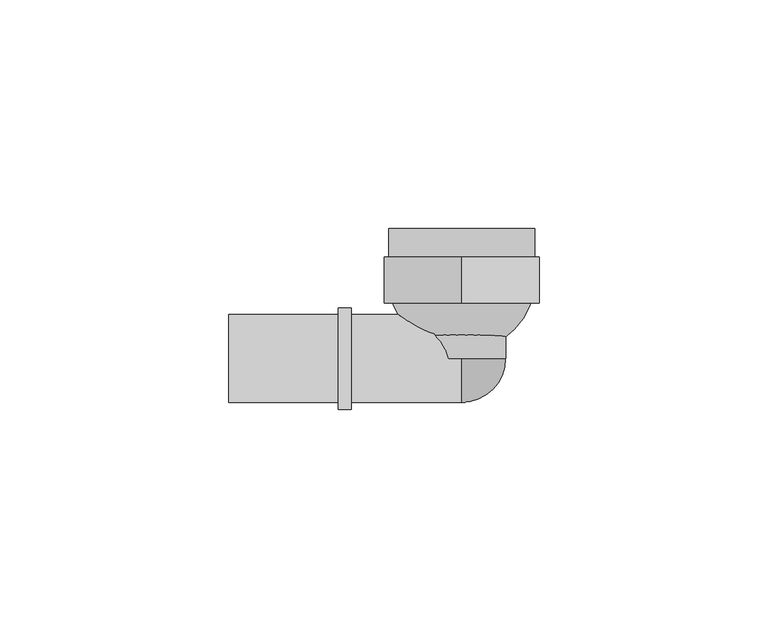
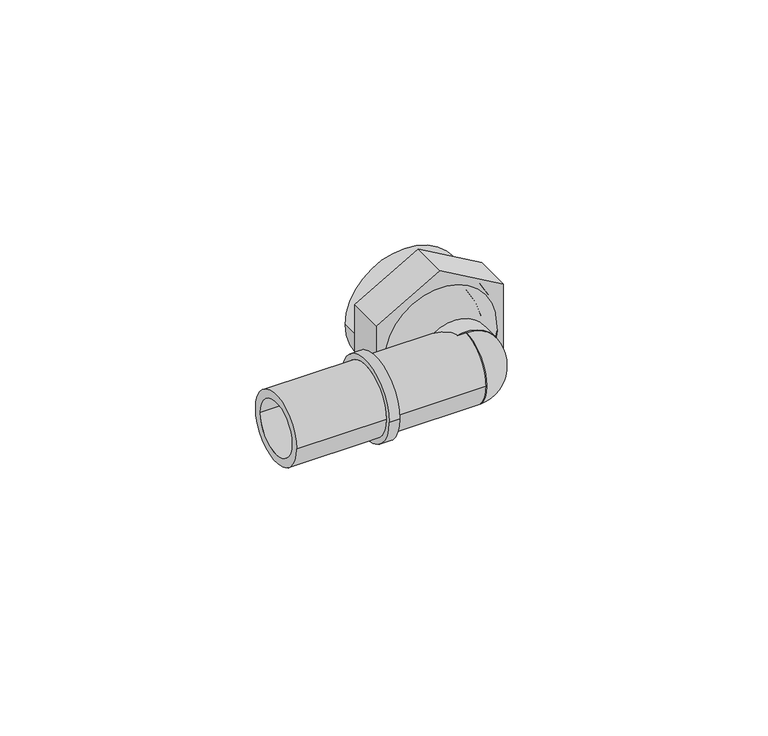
"""IFC4 building model written with IfcOpenShell, lengths in millimetres: pipe fitting geometry, FASTLOC_Elbow with female thread LX : FSL A internal PL."""

from ifc_helpers import new_model, si_unit, point, frame, origin, origin_2d, place, context, project, spatial, polyline, circle_curve, ellipse_curve, trimmed, segment, composite_curve, outline, extrude, source, transform, mapped, element, save
from ifc_brep_helpers import plane_surface, cylinder_surface, revolved_surface, advanced_brep


def pipe_fitting_05069365(model_context):
    return source(origin(), model_context, "Body", "SolidModel", [
        extrude(outline(composite_curve([segment(trimmed(circle_curve(origin_2d(), 9.6), [point((0.0, -9.6))], [point((0.0, 9.6))], False, "CARTESIAN"), True, "CONTINUOUS"), segment(trimmed(circle_curve(origin_2d(), 9.6), [point((0.0, 9.6))], [point((0.0, -9.6))], False, "CARTESIAN"), True, "CONTINUOUS")], self_intersect=False), holes=[composite_curve([segment(trimmed(circle_curve(origin_2d(), 7.35), [point((0.0, -7.35))], [point((0.0, 7.35))], True, "CARTESIAN"), True, "CONTINUOUS"), segment(trimmed(circle_curve(origin_2d(), 7.35), [point((0.0, 7.35))], [point((0.0, -7.35))], True, "CARTESIAN"), True, "CONTINUOUS")], self_intersect=False)]), frame((0.0, 0.0, 0.0), z_axis=(0.0, 1.0, 0.0), x_axis=(0.0, 0.0, 1.0)), (0.0, 0.0, 1.0), 12.2),
        extrude(outline(polyline([(-9.8149546, 17.0), (9.8149546, 17.0), (19.6299092, 0.0), (9.8149546, -17.0), (-9.8149546, -17.0), (-19.6299092, 0.0), (-9.8149546, 17.0)])), frame((0.0, 12.2, 0.0), z_axis=(0.0, 1.0, 0.0), x_axis=(0.0, 0.0, 1.0)), (0.0, 0.0, 1.0), 10.0),
        advanced_brep(
        [(0.0, 0.0, 9.6), (0.0, 0.0, 4.8), (0.0, -4.8, 0.0), (0.0, -9.6, 0.0), (0.0, 0.0, -9.6), (0.0, 0.0, -4.8)],
        [
            (0, 1),
            (1, 2, circle_curve(frame((0.0, 0.0, 0.0), z_axis=(1.0, 0.0, 0.0), x_axis=(0.0, 0.0, 1.0)), 4.8)),
            (2, 3),
            (3, 0, circle_curve(frame((0.0, 0.0, 0.0), z_axis=(-1.0, 0.0, 0.0), x_axis=(0.0, 0.0, 1.0)), 9.6)),
            (4, 3, circle_curve(frame((0.0, 0.0, 0.0), z_axis=(-1.0, 0.0, 0.0), x_axis=(0.0, 0.0, -1.0)), 9.6)),
            (2, 5, circle_curve(frame((0.0, 0.0, 0.0), z_axis=(1.0, 0.0, 0.0), x_axis=(0.0, 0.0, -1.0)), 4.8)),
            (5, 4),
            (5, 1, circle_curve(frame((0.0, 0.0, 0.0), z_axis=(0.0, -1.0, 0.0), x_axis=(0.0, 0.0, 1.0)), 4.8)),
            (0, 4, circle_curve(frame((0.0, 0.0, 0.0), z_axis=(0.0, 1.0, 0.0), x_axis=(0.0, 0.0, 1.0)), 9.6)),
        ],
        [
            plane_surface(frame((0.0, 0.0, 0.0), z_axis=(-1.0, 0.0, 0.0), x_axis=(0.0, 0.0, 1.0))),
            plane_surface(frame((0.0, 0.0, 0.0), z_axis=(-1.0, 0.0, 0.0), x_axis=(0.0, 0.0, -1.0))),
            plane_surface(frame((0.0, 0.0, 0.0), z_axis=(0.0, 1.0, 0.0), x_axis=(0.0, 0.0, 1.0))),
            revolved_surface(trimmed(ellipse_curve(frame((0.0, 0.0, 0.0), z_axis=(1.0, 0.0, 0.0), x_axis=(0.0, 0.0, 1.0)), 4.8, 4.8), [point((0.0, 0.0, 4.8))], [point((0.0, -4.8, 0.0))], True, "CARTESIAN"), (0.0, 0.0, 0.0), (0.0, 1.0, 0.0)),
            revolved_surface(trimmed(ellipse_curve(frame((0.0, 0.0, 0.0), z_axis=(-1.0, 0.0, 0.0), x_axis=(0.0, 0.0, 1.0)), 9.6, 9.6), [point((0.0, -9.6, 0.0))], [point((0.0, 0.0, 9.6))], True, "CARTESIAN"), (0.0, 0.0, 0.0), (0.0, 1.0, 0.0)),
        ],
        [
            (0, [[1, 2, 3, 4]]),
            (1, [[5, -3, 6, 7]]),
            (2, [[8, -1, 9, -7]]),
            (3, [[-2, -8, -6]]),
            (4, [[-9, -4, -5]]),
        ],
    ),
        advanced_brep(
        [(-27.0, 9.6, 0.0), (-27.0, -9.6, 0.0), (-51.0, -9.6, 0.0), (-51.0, 9.6, 0.0), (-24.2, 11.1, 0.0), (-24.2, -11.1, 0.0), (-27.0, -11.1, 0.0), (-27.0, 11.1, 0.0), (0.0, 9.6, 0.0), (0.0, -9.6, 0.0), (-24.2, -9.6, 0.0), (-24.2, 9.6, 0.0), (-51.0, 7.35, 0.0), (-51.0, -7.35, 0.0), (0.0, -7.35, 0.0), (0.0, 7.35, 0.0)],
        [
            (0, 1, circle_curve(frame((-27.0, 0.0, 0.0), z_axis=(-1.0, 0.0, 0.0), x_axis=(0.0, -1.0, 0.0)), 9.6)),
            (1, 2),
            (2, 3, circle_curve(frame((-51.0, 0.0, 0.0), z_axis=(1.0, 0.0, 0.0), x_axis=(0.0, -1.0, 0.0)), 9.6)),
            (3, 0),
            (4, 5, circle_curve(frame((-24.2, 0.0, 0.0), z_axis=(-1.0, 0.0, 0.0), x_axis=(0.0, -1.0, 0.0)), 11.1)),
            (5, 6),
            (6, 7, circle_curve(frame((-27.0, 0.0, 0.0), z_axis=(1.0, 0.0, 0.0), x_axis=(0.0, -1.0, 0.0)), 11.1)),
            (7, 4),
            (8, 9, circle_curve(frame((0.0, 0.0, 0.0), z_axis=(-1.0, 0.0, 0.0), x_axis=(0.0, -1.0, 0.0)), 9.6)),
            (9, 10),
            (10, 11, circle_curve(frame((-24.2, 0.0, 0.0), z_axis=(1.0, 0.0, 0.0), x_axis=(0.0, -1.0, 0.0)), 9.6)),
            (11, 8),
            (12, 13, circle_curve(frame((-51.0, 0.0, 0.0), z_axis=(-1.0, 0.0, 0.0), x_axis=(0.0, -1.0, 0.0)), 7.35)),
            (13, 14),
            (14, 15, circle_curve(frame((0.0, 0.0, 0.0), z_axis=(1.0, 0.0, 0.0), x_axis=(0.0, -1.0, 0.0)), 7.35)),
            (15, 12),
            (2, 3, circle_curve(frame((-51.0, 0.0, 0.0), z_axis=(-1.0, 0.0, 0.0), x_axis=(0.0, 1.0, 0.0)), 9.6)),
            (12, 13, circle_curve(frame((-51.0, 0.0, 0.0), z_axis=(1.0, 0.0, 0.0), x_axis=(0.0, 1.0, 0.0)), 7.35)),
            (1, 0, circle_curve(frame((-27.0, 0.0, 0.0), z_axis=(-1.0, 0.0, 0.0), x_axis=(0.0, 1.0, 0.0)), 9.6)),
            (6, 7, circle_curve(frame((-27.0, 0.0, 0.0), z_axis=(-1.0, 0.0, 0.0), x_axis=(0.0, 1.0, 0.0)), 11.1)),
            (5, 4, circle_curve(frame((-24.2, 0.0, 0.0), z_axis=(-1.0, 0.0, 0.0), x_axis=(0.0, 1.0, 0.0)), 11.1)),
            (10, 11, circle_curve(frame((-24.2, 0.0, 0.0), z_axis=(-1.0, 0.0, 0.0), x_axis=(0.0, 1.0, 0.0)), 9.6)),
            (9, 8, circle_curve(frame((0.0, 0.0, 0.0), z_axis=(-1.0, 0.0, 0.0), x_axis=(0.0, 1.0, 0.0)), 9.6)),
            (14, 15, circle_curve(frame((0.0, 0.0, 0.0), z_axis=(-1.0, 0.0, 0.0), x_axis=(0.0, 1.0, 0.0)), 7.35)),
        ],
        [
            cylinder_surface(frame((0.0, 0.0, 0.0), z_axis=(1.0, 0.0, 0.0), x_axis=(0.0, -1.0, 0.0)), 9.6),
            cylinder_surface(frame((0.0, 0.0, 0.0), z_axis=(1.0, 0.0, 0.0), x_axis=(0.0, -1.0, 0.0)), 11.1),
            revolved_surface(polyline([(0.0, -7.35, 0.0), (-51.0, -7.35, 0.0)]), (0.0, 0.0, 0.0), (1.0, 0.0, 0.0)),
            plane_surface(frame((-51.0, 0.0, 0.0), z_axis=(-1.0, 0.0, 0.0), x_axis=(0.0, 1.0, 0.0))),
            cylinder_surface(frame((0.0, 0.0, 0.0), z_axis=(1.0, 0.0, 0.0), x_axis=(0.0, 1.0, 0.0)), 9.6),
            plane_surface(frame((-27.0, 0.0, 0.0), z_axis=(-1.0, 0.0, 0.0), x_axis=(0.0, 1.0, 0.0))),
            cylinder_surface(frame((0.0, 0.0, 0.0), z_axis=(1.0, 0.0, 0.0), x_axis=(0.0, 1.0, 0.0)), 11.1),
            plane_surface(frame((-24.2, 0.0, 0.0), z_axis=(1.0, 0.0, 0.0), x_axis=(0.0, 1.0, 0.0))),
            plane_surface(frame((0.0, 0.0, 0.0), z_axis=(1.0, 0.0, 0.0), x_axis=(0.0, 1.0, 0.0))),
            revolved_surface(polyline([(0.0, 7.35, 0.0), (-51.0, 7.35, 0.0)]), (0.0, 0.0, 0.0), (1.0, 0.0, 0.0)),
        ],
        [
            (0, [[1, 2, 3, 4]]),
            (1, [[5, 6, 7, 8]]),
            (0, [[9, 10, 11, 12]]),
            (2, [[13, 14, 15, 16]]),
            (3, [[17, -3], [18, -13]]),
            (4, [[19, -4, -17, -2]]),
            (5, [[20, -7], [-19, -1]]),
            (6, [[21, -8, -20, -6]]),
            (7, [[-21, -5], [22, -11]]),
            (4, [[23, -12, -22, -10]]),
            (8, [[-23, -9], [24, -15]]),
            (9, [[-18, -16, -24, -14]]),
        ],
    ),
        advanced_brep(
        [(0.5, 1.5078144, 0.0), (-0.5, 1.5078144, 0.0), (-16.0, 17.5, 0.0), (16.0, 17.5, 0.0), (0.5, 5.010004, 0.0), (-0.5, 5.010004, 0.0), (12.5, 17.5, 0.0), (-12.5, 17.5, 0.0), (12.5, 28.5, 0.0), (-12.5, 28.5, 0.0), (-16.0, 28.5, 0.0), (16.0, 28.5, 0.0)],
        [
            (0, 1, circle_curve(frame((0.0, 1.5078144, 0.0), z_axis=(0.0, 1.0, 0.0), x_axis=(-1.0, 0.0, 0.0)), 0.5)),
            (1, 2, circle_curve(frame((0.0, 17.5, 0.0), z_axis=(0.0, 0.0, -1.0), x_axis=(0.0, 1.0, 0.0)), 16.0)),
            (2, 3, circle_curve(frame((0.0, 17.5, 0.0), z_axis=(0.0, -1.0, 0.0), x_axis=(-1.0, 0.0, 0.0)), 16.0)),
            (3, 0, circle_curve(frame((0.0, 17.5, 0.0), z_axis=(0.0, 0.0, -1.0), x_axis=(0.0, 1.0, 0.0)), 16.0)),
            (4, 5, circle_curve(frame((0.0, 5.010004, 0.0), z_axis=(0.0, 1.0, 0.0), x_axis=(-1.0, 0.0, 0.0)), 0.5)),
            (5, 1),
            (0, 4),
            (6, 7, circle_curve(frame((0.0, 17.5, 0.0), z_axis=(0.0, 1.0, 0.0), x_axis=(-1.0, 0.0, 0.0)), 12.5)),
            (7, 5, circle_curve(frame((0.0, 17.5, 0.0), z_axis=(0.0, 0.0, 1.0), x_axis=(0.0, 1.0, 0.0)), 12.5)),
            (4, 6, circle_curve(frame((0.0, 17.5, 0.0), z_axis=(0.0, 0.0, 1.0), x_axis=(0.0, 1.0, 0.0)), 12.5)),
            (8, 9, circle_curve(frame((0.0, 28.5, 0.0), z_axis=(0.0, 1.0, 0.0), x_axis=(-1.0, 0.0, 0.0)), 12.5)),
            (9, 7),
            (6, 8),
            (2, 10),
            (10, 11, circle_curve(frame((0.0, 28.5, 0.0), z_axis=(0.0, -1.0, 0.0), x_axis=(-1.0, 0.0, 0.0)), 16.0)),
            (11, 3),
            (1, 0, circle_curve(frame((0.0, 1.5078144, 0.0), z_axis=(0.0, 1.0, 0.0), x_axis=(1.0, 0.0, 0.0)), 0.5)),
            (3, 2, circle_curve(frame((0.0, 17.5, 0.0), z_axis=(0.0, -1.0, 0.0), x_axis=(1.0, 0.0, 0.0)), 16.0)),
            (5, 4, circle_curve(frame((0.0, 5.010004, 0.0), z_axis=(0.0, 1.0, 0.0), x_axis=(1.0, 0.0, 0.0)), 0.5)),
            (7, 6, circle_curve(frame((0.0, 17.5, 0.0), z_axis=(0.0, 1.0, 0.0), x_axis=(1.0, 0.0, 0.0)), 12.5)),
            (9, 8, circle_curve(frame((0.0, 28.5, 0.0), z_axis=(0.0, 1.0, 0.0), x_axis=(1.0, 0.0, 0.0)), 12.5)),
            (10, 11, circle_curve(frame((0.0, 28.5, 0.0), z_axis=(0.0, 1.0, 0.0), x_axis=(1.0, 0.0, 0.0)), 16.0)),
        ],
        [
            revolved_surface(trimmed(ellipse_curve(frame((0.0, 17.5, 0.0), z_axis=(0.0, 0.0, 1.0), x_axis=(0.0, 1.0, 0.0)), 16.0, 16.0), [point((-16.0, 17.5, 0.0))], [point((-0.5, 1.5078144, 0.0))], True, "CARTESIAN"), (0.0, 12.2, 0.0), (0.0, -1.0, 0.0)),
            revolved_surface(polyline([(-0.5, 1.5078144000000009, 0.0), (-0.5, 5.010004, 0.0)]), (0.0, 12.2, 0.0), (0.0, -1.0, 0.0)),
            revolved_surface(trimmed(ellipse_curve(frame((0.0, 17.5, 0.0), z_axis=(0.0, 0.0, -1.0), x_axis=(0.0, 1.0, 0.0)), 12.5, 12.5), [point((-0.5, 5.010004, 0.0))], [point((-12.5, 17.5, 0.0))], True, "CARTESIAN"), (0.0, 12.2, 0.0), (0.0, -1.0, 0.0)),
            revolved_surface(polyline([(-12.5, 17.5, 0.0), (-12.5, 28.5, 0.0)]), (0.0, 12.2, 0.0), (0.0, -1.0, 0.0)),
            cylinder_surface(frame((0.0, 12.2, 0.0), z_axis=(0.0, -1.0, 0.0), x_axis=(-1.0, 0.0, 0.0)), 16.0),
            revolved_surface(trimmed(ellipse_curve(frame((0.0, 17.5, 0.0), z_axis=(0.0, 0.0, -1.0), x_axis=(0.0, 1.0, 0.0)), 16.0, 16.0), [point((16.0, 17.5, 0.0))], [point((0.5, 1.5078144, 0.0))], True, "CARTESIAN"), (0.0, 12.2, 0.0), (0.0, -1.0, 0.0)),
            revolved_surface(polyline([(0.5, 1.5078144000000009, 0.0), (0.5, 5.010004, 0.0)]), (0.0, 12.2, 0.0), (0.0, -1.0, 0.0)),
            revolved_surface(trimmed(ellipse_curve(frame((0.0, 17.5, 0.0), z_axis=(0.0, 0.0, 1.0), x_axis=(0.0, 1.0, 0.0)), 12.5, 12.5), [point((0.5, 5.010004, 0.0))], [point((12.5, 17.5, 0.0))], True, "CARTESIAN"), (0.0, 12.2, 0.0), (0.0, -1.0, 0.0)),
            revolved_surface(polyline([(12.5, 17.5, 0.0), (12.5, 28.5, 0.0)]), (0.0, 12.2, 0.0), (0.0, -1.0, 0.0)),
            plane_surface(frame((0.0, 28.5, 0.0), z_axis=(0.0, 1.0, 0.0), x_axis=(1.0, 0.0, 0.0))),
            cylinder_surface(frame((0.0, 12.2, 0.0), z_axis=(0.0, -1.0, 0.0), x_axis=(1.0, 0.0, 0.0)), 16.0),
        ],
        [
            (0, [[1, 2, 3, 4]]),
            (1, [[5, 6, -1, 7]]),
            (2, [[8, 9, -5, 10]]),
            (3, [[11, 12, -8, 13]]),
            (4, [[-3, 14, 15, 16]]),
            (5, [[17, -4, 18, -2]]),
            (6, [[19, -7, -17, -6]]),
            (7, [[20, -10, -19, -9]]),
            (8, [[21, -13, -20, -12]]),
            (9, [[22, -15], [-21, -11]]),
            (10, [[-18, -16, -22, -14]]),
        ],
    ),
    ])


if __name__ == "__main__":
    model = new_model("IFC4")
    model_context = context("Model", 3, world=origin())
    ifc_project = project(units=[si_unit("LENGTHUNIT", "METRE", prefix="MILLI")], contexts=[model_context])
    site = spatial("IfcSite", under=ifc_project)
    building = spatial("IfcBuilding", under=site)
    placement = place(None, origin())
    pipe_fitting_shape = pipe_fitting_05069365(model_context)
    element("IfcPipeFitting", 1, ObjectType="FASTLOC_Elbow with female thread LX : FSL A internal PL", at=placement, inside=building, context=model_context, shape_type="MappedRepresentation", body=[
        mapped(pipe_fitting_shape, transform((0.0, 0.0, 0.0), x_axis=(1.0, 0.0, 0.0), y_axis=(0.0, 1.0, 0.0), z_axis=(0.0, 0.0, 1.0))),
    ])
    save(model, "model.ifc")
